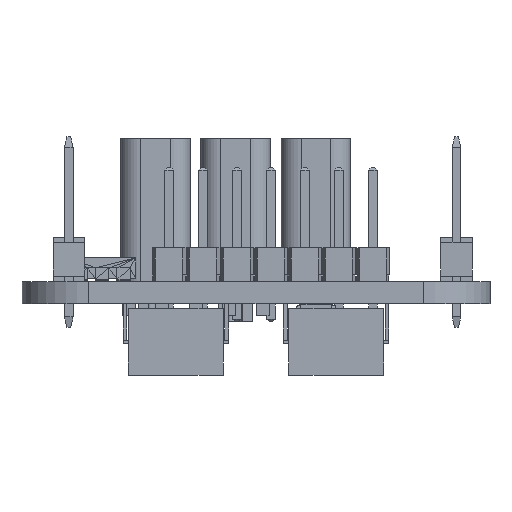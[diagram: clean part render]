
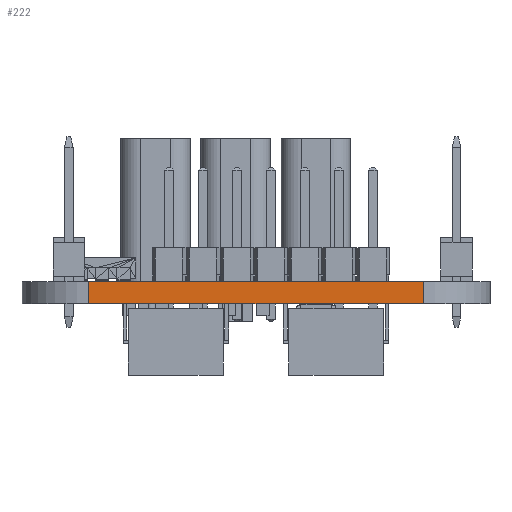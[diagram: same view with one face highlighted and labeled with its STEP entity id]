
A CAD part, left-side view. The second image highlights one B-rep face of the part: STEP entity #222.
In plain terms, the highlighted planar face has unit normal (-1, 0, 0).
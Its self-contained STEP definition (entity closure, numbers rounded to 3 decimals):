
#107 = CYLINDRICAL_SURFACE('',#108,5.);
#108 = AXIS2_PLACEMENT_3D('',#109,#110,#111);
#109 = CARTESIAN_POINT('',(30.,35.,0.));
#110 = DIRECTION('',(0.,0.,-1.));
#111 = DIRECTION('',(0.,-1.,0.));
#132 = VERTEX_POINT('',#133);
#133 = CARTESIAN_POINT('',(25.,35.,1.646));
#148 = PLANE('',#149);
#149 = AXIS2_PLACEMENT_3D('',#150,#151,#152);
#150 = CARTESIAN_POINT('',(30.,30.,1.646));
#151 = DIRECTION('',(0.,0.,1.));
#152 = DIRECTION('',(1.,0.,0.));
#164 = EDGE_CURVE('',#165,#132,#167,.T.);
#165 = VERTEX_POINT('',#166);
#166 = CARTESIAN_POINT('',(25.,35.,0.));
#167 = SURFACE_CURVE('',#168,(#172,#179),.PCURVE_S1.);
#168 = LINE('',#169,#170);
#169 = CARTESIAN_POINT('',(25.,35.,0.));
#170 = VECTOR('',#171,1.);
#171 = DIRECTION('',(0.,0.,1.));
#172 = PCURVE('',#107,#173);
#173 = DEFINITIONAL_REPRESENTATION('',(#174),#178);
#174 = LINE('',#175,#176);
#175 = CARTESIAN_POINT('',(1.571,0.));
#176 = VECTOR('',#177,1.);
#177 = DIRECTION('',(0.,-1.));
#178 = ( GEOMETRIC_REPRESENTATION_CONTEXT(2) 
PARAMETRIC_REPRESENTATION_CONTEXT() REPRESENTATION_CONTEXT('2D SPACE',''
  ) );
#179 = PCURVE('',#180,#185);
#180 = PLANE('',#181);
#181 = AXIS2_PLACEMENT_3D('',#182,#183,#184);
#182 = CARTESIAN_POINT('',(25.,35.,0.));
#183 = DIRECTION('',(-1.,0.,0.));
#184 = DIRECTION('',(0.,1.,0.));
#185 = DEFINITIONAL_REPRESENTATION('',(#186),#190);
#186 = LINE('',#187,#188);
#187 = CARTESIAN_POINT('',(0.,0.));
#188 = VECTOR('',#189,1.);
#189 = DIRECTION('',(0.,-1.));
#190 = ( GEOMETRIC_REPRESENTATION_CONTEXT(2) 
PARAMETRIC_REPRESENTATION_CONTEXT() REPRESENTATION_CONTEXT('2D SPACE',''
  ) );
#207 = PLANE('',#208);
#208 = AXIS2_PLACEMENT_3D('',#209,#210,#211);
#209 = CARTESIAN_POINT('',(30.,30.,0.));
#210 = DIRECTION('',(0.,0.,1.));
#211 = DIRECTION('',(1.,0.,0.));
#222 = ADVANCED_FACE('',(#223),#180,.T.);
#223 = FACE_BOUND('',#224,.T.);
#224 = EDGE_LOOP('',(#225,#226,#249,#277));
#225 = ORIENTED_EDGE('',*,*,#164,.T.);
#226 = ORIENTED_EDGE('',*,*,#227,.T.);
#227 = EDGE_CURVE('',#132,#228,#230,.T.);
#228 = VERTEX_POINT('',#229);
#229 = CARTESIAN_POINT('',(25.,60.,1.646));
#230 = SURFACE_CURVE('',#231,(#235,#242),.PCURVE_S1.);
#231 = LINE('',#232,#233);
#232 = CARTESIAN_POINT('',(25.,35.,1.646));
#233 = VECTOR('',#234,1.);
#234 = DIRECTION('',(0.,1.,0.));
#235 = PCURVE('',#180,#236);
#236 = DEFINITIONAL_REPRESENTATION('',(#237),#241);
#237 = LINE('',#238,#239);
#238 = CARTESIAN_POINT('',(0.,-1.646));
#239 = VECTOR('',#240,1.);
#240 = DIRECTION('',(1.,0.));
#241 = ( GEOMETRIC_REPRESENTATION_CONTEXT(2) 
PARAMETRIC_REPRESENTATION_CONTEXT() REPRESENTATION_CONTEXT('2D SPACE',''
  ) );
#242 = PCURVE('',#148,#243);
#243 = DEFINITIONAL_REPRESENTATION('',(#244),#248);
#244 = LINE('',#245,#246);
#245 = CARTESIAN_POINT('',(-5.,5.));
#246 = VECTOR('',#247,1.);
#247 = DIRECTION('',(0.,1.));
#248 = ( GEOMETRIC_REPRESENTATION_CONTEXT(2) 
PARAMETRIC_REPRESENTATION_CONTEXT() REPRESENTATION_CONTEXT('2D SPACE',''
  ) );
#249 = ORIENTED_EDGE('',*,*,#250,.F.);
#250 = EDGE_CURVE('',#251,#228,#253,.T.);
#251 = VERTEX_POINT('',#252);
#252 = CARTESIAN_POINT('',(25.,60.,0.));
#253 = SURFACE_CURVE('',#254,(#258,#265),.PCURVE_S1.);
#254 = LINE('',#255,#256);
#255 = CARTESIAN_POINT('',(25.,60.,0.));
#256 = VECTOR('',#257,1.);
#257 = DIRECTION('',(0.,0.,1.));
#258 = PCURVE('',#180,#259);
#259 = DEFINITIONAL_REPRESENTATION('',(#260),#264);
#260 = LINE('',#261,#262);
#261 = CARTESIAN_POINT('',(25.,0.));
#262 = VECTOR('',#263,1.);
#263 = DIRECTION('',(0.,-1.));
#264 = ( GEOMETRIC_REPRESENTATION_CONTEXT(2) 
PARAMETRIC_REPRESENTATION_CONTEXT() REPRESENTATION_CONTEXT('2D SPACE',''
  ) );
#265 = PCURVE('',#266,#271);
#266 = CYLINDRICAL_SURFACE('',#267,5.);
#267 = AXIS2_PLACEMENT_3D('',#268,#269,#270);
#268 = CARTESIAN_POINT('',(30.,60.,0.));
#269 = DIRECTION('',(0.,0.,-1.));
#270 = DIRECTION('',(-1.,0.,0.));
#271 = DEFINITIONAL_REPRESENTATION('',(#272),#276);
#272 = LINE('',#273,#274);
#273 = CARTESIAN_POINT('',(0.,0.));
#274 = VECTOR('',#275,1.);
#275 = DIRECTION('',(0.,-1.));
#276 = ( GEOMETRIC_REPRESENTATION_CONTEXT(2) 
PARAMETRIC_REPRESENTATION_CONTEXT() REPRESENTATION_CONTEXT('2D SPACE',''
  ) );
#277 = ORIENTED_EDGE('',*,*,#278,.F.);
#278 = EDGE_CURVE('',#165,#251,#279,.T.);
#279 = SURFACE_CURVE('',#280,(#284,#291),.PCURVE_S1.);
#280 = LINE('',#281,#282);
#281 = CARTESIAN_POINT('',(25.,35.,0.));
#282 = VECTOR('',#283,1.);
#283 = DIRECTION('',(0.,1.,0.));
#284 = PCURVE('',#180,#285);
#285 = DEFINITIONAL_REPRESENTATION('',(#286),#290);
#286 = LINE('',#287,#288);
#287 = CARTESIAN_POINT('',(0.,0.));
#288 = VECTOR('',#289,1.);
#289 = DIRECTION('',(1.,0.));
#290 = ( GEOMETRIC_REPRESENTATION_CONTEXT(2) 
PARAMETRIC_REPRESENTATION_CONTEXT() REPRESENTATION_CONTEXT('2D SPACE',''
  ) );
#291 = PCURVE('',#207,#292);
#292 = DEFINITIONAL_REPRESENTATION('',(#293),#297);
#293 = LINE('',#294,#295);
#294 = CARTESIAN_POINT('',(-5.,5.));
#295 = VECTOR('',#296,1.);
#296 = DIRECTION('',(0.,1.));
#297 = ( GEOMETRIC_REPRESENTATION_CONTEXT(2) 
PARAMETRIC_REPRESENTATION_CONTEXT() REPRESENTATION_CONTEXT('2D SPACE',''
  ) );
